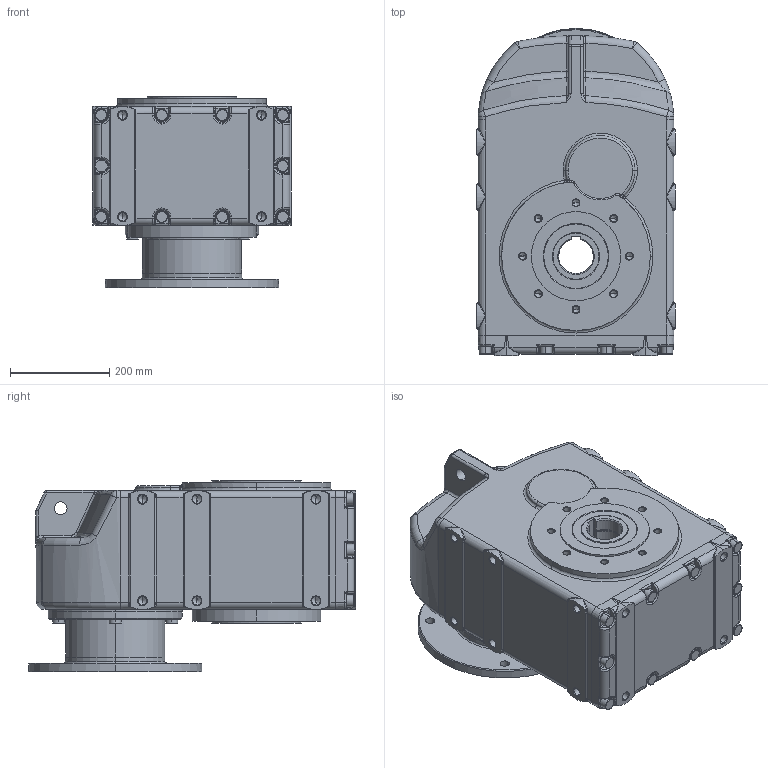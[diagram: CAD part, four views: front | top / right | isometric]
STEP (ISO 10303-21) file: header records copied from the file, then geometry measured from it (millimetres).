
FILE_DESCRIPTION (( 'STEP AP214' ), '1' );
FILE_NAME ('tnc63-f300-ap160.STEP', '2009-09-17T11:03:33', ( '' ), ( '' ), 'SwSTEP 2.0', 'SolidWorks 2003240', '' );
FILE_SCHEMA (( 'AUTOMOTIVE_DESIGN' ));
Products named in the file (4): Skøíò TNC6_Skøíò TNC63 AP160; D6912_Šroub DIN 6912 - M14x35; Pøíruba MTC72A kulatá _250-300-350; tnc63-f300-ap160
Assembly tree (8 placements, depth 2):
  tnc63-f300-ap160
    D6912_Šroub DIN 6912 - M14x35  x6
    Pøíruba MTC72A kulatá _250-300-350
    Skøíò TNC6_Skøíò TNC63 AP160
Bounding box: 400 x 660 x 387 mm (x, y, z)
Volume: 61866439.5 mm3; surface area: 1446343.3 mm2
Topology: 8 solids, 8 shells, 1259 faces, 2839 edges, 1540 vertices
Faces by surface type: cylinder 425, plane 251, cone 224, bspline 176, torus 170, sphere 13
Entity records: 132697 total; most frequent: CARTESIAN_POINT 108588, DIRECTION 5078, ORIENTED_EDGE 4770, EDGE_CURVE 2385, AXIS2_PLACEMENT_3D 2118, VERTEX_POINT 1385, CIRCLE 1209, EDGE_LOOP 1168
